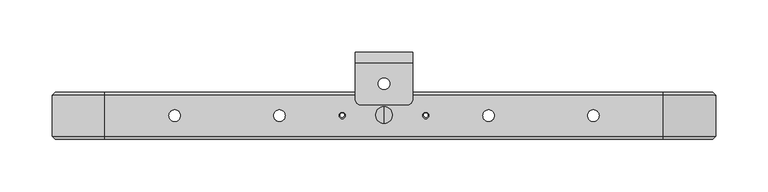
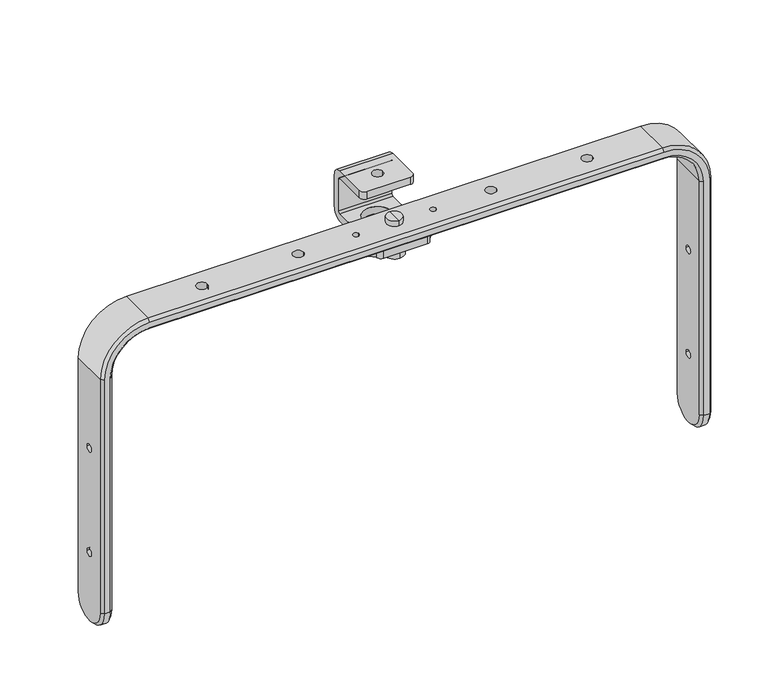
"""IFC4 building model written with IfcOpenShell, lengths in millimetres: proxy geometry, ePS12-HBRK600-CHM : ePS12-HBRK600-CHM."""

from ifc_helpers import new_model, si_unit, frame, origin, place, context, project, spatial, polyline, circle_curve, source, transform, mapped, element, save
from ifc_brep_helpers import plane_surface, cylinder_surface, revolved_surface, advanced_brep


def generic_models_d41a29af(model_context):
    return source(origin(), model_context, "Body", "AdvancedBrep", [
        advanced_brep(
        [(317.0, -10.9281655, -341.5012591), (317.0, -10.9281655, -85.0), (317.0, -50.0718345, -85.0), (317.0, -50.0718345, -341.5012591), (317.0, -26.5, -172.0012591), (317.0, -34.5, -172.0012591), (317.0, -26.5, -286.5012591), (317.0, -34.5, -286.5012591), (314.0, -53.0718345, -85.0), (314.0, -53.0718345, -341.5012591), (267.0, -53.0718345, -38.0), (-267.0, -53.0718345, -38.0), (-314.0, -53.0718345, -85.0), (-314.0, -53.0718345, -341.5012591), (-308.0, -53.0718345, -341.5012591), (-308.0, -53.0718345, -85.0), (-267.0, -53.0718345, -44.0), (267.0, -53.0718345, -44.0), (308.0, -53.0718345, -85.0), (308.0, -53.0718345, -341.5012591), (305.0, -50.0718345, -85.0), (305.0, -50.0718345, -341.5012591), (305.0, -10.9281655, -85.0), (305.0, -10.9281655, -341.5012591), (305.0, -34.5, -172.0012591), (305.0, -26.5, -172.0012591), (305.0, -34.5, -286.5012591), (305.0, -26.5, -286.5012591), (267.0, -10.9281655, -35.0), (267.0, -50.0718345, -35.0), (267.0, -50.0718345, -47.0), (267.0, -10.9281655, -47.0), (-267.0, -10.9281655, -35.0), (-267.0, -50.0718345, -35.0), (5.5, -30.5, -35.0), (-5.5, -30.5, -35.0), (-194.5, -30.5, -35.0), (-205.5, -30.5, -35.0), (-37.0, -30.5, -35.0), (-43.0, -30.5, -35.0), (-94.5, -30.5, -35.0), (-105.5, -30.5, -35.0), (194.5, -30.5, -35.0), (205.5, -30.5, -35.0), (37.0, -30.5, -35.0), (43.0, -30.5, -35.0), (94.5, -30.5, -35.0), (105.5, -30.5, -35.0), (-267.0, -50.0718345, -47.0), (-267.0, -10.9281655, -47.0), (-5.5, -30.5, -47.0), (5.5, -30.5, -47.0), (-205.5, -30.5, -47.0), (-194.5, -30.5, -47.0), (-43.0, -30.5, -47.0), (-37.0, -30.5, -47.0), (-105.5, -30.5, -47.0), (-94.5, -30.5, -47.0), (205.5, -30.5, -47.0), (194.5, -30.5, -47.0), (43.0, -30.5, -47.0), (37.0, -30.5, -47.0), (105.5, -30.5, -47.0), (94.5, -30.5, -47.0), (-317.0, -10.9281655, -85.0), (-317.0, -50.0718345, -85.0), (-305.0, -50.0718345, -85.0), (-305.0, -10.9281655, -85.0), (-317.0, -10.9281655, -341.5012591), (-317.0, -50.0718345, -341.5012591), (-317.0, -34.5, -172.0012591), (-317.0, -26.5, -172.0012591), (-317.0, -34.5, -286.5012591), (-317.0, -26.5, -286.5012591), (-305.0, -50.0718345, -341.5012591), (-305.0, -10.9281655, -341.5012591), (-305.0, -26.5, -172.0012591), (-305.0, -34.5, -172.0012591), (-305.0, -26.5, -286.5012591), (-305.0, -34.5, -286.5012591), (308.0, -7.9281655, -85.0), (308.0, -7.9281655, -341.5012591), (267.0, -7.9281655, -44.0), (-267.0, -7.9281655, -44.0), (-308.0, -7.9281655, -85.0), (-308.0, -7.9281655, -341.5012591), (-314.0, -7.9281655, -341.5012591), (-314.0, -7.9281655, -85.0), (-267.0, -7.9281655, -38.0), (267.0, -7.9281655, -38.0), (314.0, -7.9281655, -85.0), (314.0, -7.9281655, -341.5012591)],
        [
            (0, 1),
            (1, 2),
            (2, 3),
            (3, 0, circle_curve(frame((317.0, -30.5, -341.5012591), z_axis=(1.0, 0.0, 0.0), x_axis=(0.0, -1.0, 0.0)), 19.5718345)),
            (4, 5, circle_curve(frame((317.0, -30.5, -172.0012591), z_axis=(-1.0, 0.0, 0.0), x_axis=(0.0, 1.0, 0.0)), 4.0)),
            (5, 4, circle_curve(frame((317.0, -30.5, -172.0012591), z_axis=(-1.0, 0.0, 0.0), x_axis=(0.0, 1.0, 0.0)), 4.0)),
            (6, 7, circle_curve(frame((317.0, -30.5, -286.5012591), z_axis=(-1.0, 0.0, 0.0), x_axis=(0.0, 1.0, 0.0)), 4.0)),
            (7, 6, circle_curve(frame((317.0, -30.5, -286.5012591), z_axis=(-1.0, 0.0, 0.0), x_axis=(0.0, 1.0, 0.0)), 4.0)),
            (2, 8),
            (8, 9),
            (9, 3),
            (8, 10, circle_curve(frame((267.0, -53.0718345, -85.0), z_axis=(0.0, -1.0, 0.0), x_axis=(1.0, 0.0, 0.0)), 47.0)),
            (10, 11),
            (11, 12, circle_curve(frame((-267.0, -53.0718345, -85.0), z_axis=(0.0, -1.0, 0.0), x_axis=(0.0, 0.0, 1.0)), 47.0)),
            (12, 13),
            (13, 14),
            (14, 15),
            (15, 16, circle_curve(frame((-267.0, -53.0718345, -85.0), z_axis=(0.0, 1.0, 0.0), x_axis=(0.0, 0.0, 1.0)), 41.0)),
            (16, 17),
            (17, 18, circle_curve(frame((267.0, -53.0718345, -85.0), z_axis=(0.0, 1.0, 0.0), x_axis=(1.0, 0.0, 0.0)), 41.0)),
            (18, 19),
            (19, 9),
            (18, 20),
            (20, 21),
            (21, 19),
            (20, 22),
            (22, 23),
            (23, 21, circle_curve(frame((305.0, -30.5, -341.5012591), z_axis=(-1.0, 0.0, 0.0), x_axis=(0.0, -1.0, 0.0)), 19.5718345)),
            (24, 25, circle_curve(frame((305.0, -30.5, -172.0012591), z_axis=(1.0, 0.0, 0.0), x_axis=(0.0, 1.0, 0.0)), 4.0)),
            (25, 24, circle_curve(frame((305.0, -30.5, -172.0012591), z_axis=(1.0, 0.0, 0.0), x_axis=(0.0, 1.0, 0.0)), 4.0)),
            (26, 27, circle_curve(frame((305.0, -30.5, -286.5012591), z_axis=(1.0, 0.0, 0.0), x_axis=(0.0, 1.0, 0.0)), 4.0)),
            (27, 26, circle_curve(frame((305.0, -30.5, -286.5012591), z_axis=(1.0, 0.0, 0.0), x_axis=(0.0, 1.0, 0.0)), 4.0)),
            (1, 28, circle_curve(frame((267.0, -10.9281655, -85.0), z_axis=(0.0, -1.0, 0.0), x_axis=(1.0, 0.0, 0.0)), 50.0)),
            (28, 29),
            (29, 2, circle_curve(frame((267.0, -50.0718345, -85.0), z_axis=(0.0, 1.0, 0.0), x_axis=(1.0, 0.0, 0.0)), 50.0)),
            (29, 10),
            (17, 30),
            (30, 20, circle_curve(frame((267.0, -50.0718345, -85.0), z_axis=(0.0, 1.0, 0.0), x_axis=(1.0, 0.0, 0.0)), 38.0)),
            (30, 31),
            (31, 22, circle_curve(frame((267.0, -10.9281655, -85.0), z_axis=(0.0, 1.0, 0.0), x_axis=(1.0, 0.0, 0.0)), 38.0)),
            (28, 32),
            (32, 33),
            (33, 29),
            (34, 35, circle_curve(frame((0.0, -30.5, -35.0), z_axis=(0.0, 0.0, -1.0), x_axis=(1.0, 0.0, 0.0)), 5.5)),
            (35, 34, circle_curve(frame((0.0, -30.5, -35.0), z_axis=(0.0, 0.0, -1.0), x_axis=(1.0, 0.0, 0.0)), 5.5)),
            (36, 37, circle_curve(frame((-200.0, -30.5, -35.0), z_axis=(0.0, 0.0, -1.0), x_axis=(1.0, 0.0, 0.0)), 5.5)),
            (37, 36, circle_curve(frame((-200.0, -30.5, -35.0), z_axis=(0.0, 0.0, -1.0), x_axis=(1.0, 0.0, 0.0)), 5.5)),
            (38, 39, circle_curve(frame((-40.0, -30.5, -35.0), z_axis=(0.0, 0.0, -1.0), x_axis=(1.0, 0.0, 0.0)), 3.0)),
            (39, 38, circle_curve(frame((-40.0, -30.5, -35.0), z_axis=(0.0, 0.0, -1.0), x_axis=(1.0, 0.0, 0.0)), 3.0)),
            (40, 41, circle_curve(frame((-100.0, -30.5, -35.0), z_axis=(0.0, 0.0, -1.0), x_axis=(1.0, 0.0, 0.0)), 5.5)),
            (41, 40, circle_curve(frame((-100.0, -30.5, -35.0), z_axis=(0.0, 0.0, -1.0), x_axis=(1.0, 0.0, 0.0)), 5.5)),
            (42, 43, circle_curve(frame((200.0, -30.5, -35.0), z_axis=(0.0, 0.0, -1.0), x_axis=(-1.0, 0.0, 0.0)), 5.5)),
            (43, 42, circle_curve(frame((200.0, -30.5, -35.0), z_axis=(0.0, 0.0, -1.0), x_axis=(-1.0, 0.0, 0.0)), 5.5)),
            (44, 45, circle_curve(frame((40.0, -30.5, -35.0), z_axis=(0.0, 0.0, -1.0), x_axis=(-1.0, 0.0, 0.0)), 3.0)),
            (45, 44, circle_curve(frame((40.0, -30.5, -35.0), z_axis=(0.0, 0.0, -1.0), x_axis=(-1.0, 0.0, 0.0)), 3.0)),
            (46, 47, circle_curve(frame((100.0, -30.5, -35.0), z_axis=(0.0, 0.0, -1.0), x_axis=(-1.0, 0.0, 0.0)), 5.5)),
            (47, 46, circle_curve(frame((100.0, -30.5, -35.0), z_axis=(0.0, 0.0, -1.0), x_axis=(-1.0, 0.0, 0.0)), 5.5)),
            (33, 11),
            (16, 48),
            (48, 30),
            (48, 49),
            (49, 31),
            (50, 51, circle_curve(frame((0.0, -30.5, -47.0), z_axis=(0.0, 0.0, 1.0), x_axis=(1.0, 0.0, 0.0)), 5.5)),
            (51, 50, circle_curve(frame((0.0, -30.5, -47.0), z_axis=(0.0, 0.0, 1.0), x_axis=(1.0, 0.0, 0.0)), 5.5)),
            (52, 53, circle_curve(frame((-200.0, -30.5, -47.0), z_axis=(0.0, 0.0, 1.0), x_axis=(1.0, 0.0, 0.0)), 5.5)),
            (53, 52, circle_curve(frame((-200.0, -30.5, -47.0), z_axis=(0.0, 0.0, 1.0), x_axis=(1.0, 0.0, 0.0)), 5.5)),
            (54, 55, circle_curve(frame((-40.0, -30.5, -47.0), z_axis=(0.0, 0.0, 1.0), x_axis=(1.0, 0.0, 0.0)), 3.0)),
            (55, 54, circle_curve(frame((-40.0, -30.5, -47.0), z_axis=(0.0, 0.0, 1.0), x_axis=(1.0, 0.0, 0.0)), 3.0)),
            (56, 57, circle_curve(frame((-100.0, -30.5, -47.0), z_axis=(0.0, 0.0, 1.0), x_axis=(1.0, 0.0, 0.0)), 5.5)),
            (57, 56, circle_curve(frame((-100.0, -30.5, -47.0), z_axis=(0.0, 0.0, 1.0), x_axis=(1.0, 0.0, 0.0)), 5.5)),
            (58, 59, circle_curve(frame((200.0, -30.5, -47.0), z_axis=(0.0, 0.0, 1.0), x_axis=(-1.0, 0.0, 0.0)), 5.5)),
            (59, 58, circle_curve(frame((200.0, -30.5, -47.0), z_axis=(0.0, 0.0, 1.0), x_axis=(-1.0, 0.0, 0.0)), 5.5)),
            (60, 61, circle_curve(frame((40.0, -30.5, -47.0), z_axis=(0.0, 0.0, 1.0), x_axis=(-1.0, 0.0, 0.0)), 3.0)),
            (61, 60, circle_curve(frame((40.0, -30.5, -47.0), z_axis=(0.0, 0.0, 1.0), x_axis=(-1.0, 0.0, 0.0)), 3.0)),
            (62, 63, circle_curve(frame((100.0, -30.5, -47.0), z_axis=(0.0, 0.0, 1.0), x_axis=(-1.0, 0.0, 0.0)), 5.5)),
            (63, 62, circle_curve(frame((100.0, -30.5, -47.0), z_axis=(0.0, 0.0, 1.0), x_axis=(-1.0, 0.0, 0.0)), 5.5)),
            (32, 64, circle_curve(frame((-267.0, -10.9281655, -85.0), z_axis=(0.0, -1.0, 0.0), x_axis=(0.0, 0.0, 1.0)), 50.0)),
            (64, 65),
            (65, 33, circle_curve(frame((-267.0, -50.0718345, -85.0), z_axis=(0.0, 1.0, 0.0), x_axis=(0.0, 0.0, 1.0)), 50.0)),
            (65, 12),
            (15, 66),
            (66, 48, circle_curve(frame((-267.0, -50.0718345, -85.0), z_axis=(0.0, 1.0, 0.0), x_axis=(0.0, 0.0, 1.0)), 38.0)),
            (66, 67),
            (67, 49, circle_curve(frame((-267.0, -10.9281655, -85.0), z_axis=(0.0, 1.0, 0.0), x_axis=(0.0, 0.0, 1.0)), 38.0)),
            (64, 68),
            (68, 69, circle_curve(frame((-317.0, -30.5, -341.5012591), z_axis=(-1.0, 0.0, 0.0), x_axis=(0.0, -1.0, 0.0)), 19.5718345)),
            (69, 65),
            (70, 71, circle_curve(frame((-317.0, -30.5, -172.0012591), z_axis=(1.0, 0.0, 0.0), x_axis=(0.0, 1.0, 0.0)), 4.0)),
            (71, 70, circle_curve(frame((-317.0, -30.5, -172.0012591), z_axis=(1.0, 0.0, 0.0), x_axis=(0.0, 1.0, 0.0)), 4.0)),
            (72, 73, circle_curve(frame((-317.0, -30.5, -286.5012591), z_axis=(1.0, 0.0, 0.0), x_axis=(0.0, 1.0, 0.0)), 4.0)),
            (73, 72, circle_curve(frame((-317.0, -30.5, -286.5012591), z_axis=(1.0, 0.0, 0.0), x_axis=(0.0, 1.0, 0.0)), 4.0)),
            (69, 13),
            (14, 74),
            (74, 66),
            (74, 75, circle_curve(frame((-305.0, -30.5, -341.5012591), z_axis=(1.0, 0.0, 0.0), x_axis=(0.0, -1.0, 0.0)), 19.5718345)),
            (75, 67),
            (76, 77, circle_curve(frame((-305.0, -30.5, -172.0012591), z_axis=(-1.0, 0.0, 0.0), x_axis=(0.0, 1.0, 0.0)), 4.0)),
            (77, 76, circle_curve(frame((-305.0, -30.5, -172.0012591), z_axis=(-1.0, 0.0, 0.0), x_axis=(0.0, 1.0, 0.0)), 4.0)),
            (78, 79, circle_curve(frame((-305.0, -30.5, -286.5012591), z_axis=(-1.0, 0.0, 0.0), x_axis=(0.0, 1.0, 0.0)), 4.0)),
            (79, 78, circle_curve(frame((-305.0, -30.5, -286.5012591), z_axis=(-1.0, 0.0, 0.0), x_axis=(0.0, 1.0, 0.0)), 4.0)),
            (22, 80),
            (80, 81),
            (81, 23),
            (80, 82, circle_curve(frame((267.0, -7.9281655, -85.0), z_axis=(0.0, -1.0, 0.0), x_axis=(1.0, 0.0, 0.0)), 41.0)),
            (82, 83),
            (83, 84, circle_curve(frame((-267.0, -7.9281655, -85.0), z_axis=(0.0, -1.0, 0.0), x_axis=(0.0, 0.0, 1.0)), 41.0)),
            (84, 85),
            (85, 86),
            (86, 87),
            (87, 88, circle_curve(frame((-267.0, -7.9281655, -85.0), z_axis=(0.0, 1.0, 0.0), x_axis=(0.0, 0.0, 1.0)), 47.0)),
            (88, 89),
            (89, 90, circle_curve(frame((267.0, -7.9281655, -85.0), z_axis=(0.0, 1.0, 0.0), x_axis=(1.0, 0.0, 0.0)), 47.0)),
            (90, 91),
            (91, 81),
            (0, 91),
            (90, 1),
            (31, 82),
            (89, 28),
            (49, 83),
            (88, 32),
            (67, 84),
            (87, 64),
            (75, 85),
            (86, 68),
            (85, 14, circle_curve(frame((-308.0, -30.5, -341.5012591), z_axis=(-1.0, 0.0, 0.0), x_axis=(0.0, -1.0, 0.0)), 22.5718345)),
            (13, 86, circle_curve(frame((-314.0, -30.5, -341.5012591), z_axis=(1.0, 0.0, 0.0), x_axis=(0.0, -1.0, 0.0)), 22.5718345)),
            (91, 9, circle_curve(frame((314.0, -30.5, -341.5012591), z_axis=(-1.0, 0.0, 0.0), x_axis=(0.0, -1.0, 0.0)), 22.5718345)),
            (19, 81, circle_curve(frame((308.0, -30.5, -341.5012591), z_axis=(1.0, 0.0, 0.0), x_axis=(0.0, -1.0, 0.0)), 22.5718345)),
            (50, 35),
            (34, 51),
            (52, 37),
            (36, 53),
            (54, 39),
            (38, 55),
            (24, 5),
            (4, 25),
            (70, 77),
            (76, 71),
            (56, 41),
            (40, 57),
            (58, 43),
            (42, 59),
            (60, 45),
            (44, 61),
            (62, 47),
            (46, 63),
            (26, 7),
            (6, 27),
            (72, 79),
            (78, 73),
        ],
        [
            plane_surface(frame((317.0, -10.9281655, -341.5012591), z_axis=(1.0, 0.0, 0.0), x_axis=(0.0, 0.0, 1.0))),
            plane_surface(frame((317.0, -50.0718345, -341.5012591), z_axis=(0.7071067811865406, -0.7071067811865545, 0.0), x_axis=(0.0, 0.0, 1.0))),
            plane_surface(frame((314.0, -53.0718345, -341.5012591), z_axis=(0.0, -1.0, 0.0), x_axis=(0.0, 0.0, 1.0))),
            plane_surface(frame((308.0, -53.0718345, -341.5012591), z_axis=(-0.707106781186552, -0.707106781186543, 0.0), x_axis=(0.0, 0.0, 1.0))),
            plane_surface(frame((305.0, -50.0718345, -341.5012591), z_axis=(-1.0, 0.0, 0.0), x_axis=(0.0, 0.0, 1.0))),
            cylinder_surface(frame((267.0, -30.5, -85.0), z_axis=(0.0, -1.0, 0.0), x_axis=(1.0, 0.0, 0.0)), 50.0),
            revolved_surface(polyline([(317.0, -50.0718345, -85.0), (314.0, -53.0718345, -85.0)]), (267.0, -30.5, -85.0), (0.0, -1.0, 0.0)),
            revolved_surface(polyline([(308.0, -53.0718345, -85.0), (305.0, -50.0718345, -85.0)]), (267.0, -30.5, -85.0), (0.0, -1.0, 0.0)),
            revolved_surface(polyline([(305.0, -50.0718345, -85.0), (305.0, -10.928165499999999, -85.0)]), (267.0, -30.5, -85.0), (0.0, -1.0, 0.0)),
            plane_surface(frame((267.0, -10.9281655, -35.0), z_axis=(0.0, 0.0, 1.0), x_axis=(-1.0, 0.0, 0.0))),
            plane_surface(frame((267.0, -50.0718345, -35.0), z_axis=(0.0, -0.7071067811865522, 0.7071067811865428), x_axis=(-1.0, 0.0, 0.0))),
            plane_surface(frame((267.0, -53.0718345, -44.0), z_axis=(0.0, -0.7071067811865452, -0.7071067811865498), x_axis=(-1.0, 0.0, 0.0))),
            plane_surface(frame((267.0, -50.0718345, -47.0), z_axis=(0.0, 0.0, -1.0), x_axis=(-1.0, 0.0, 0.0))),
            cylinder_surface(frame((-267.0, -30.5, -85.0), z_axis=(0.0, -1.0, 0.0), x_axis=(0.0, 0.0, 1.0)), 50.0),
            revolved_surface(polyline([(-267.0, -50.0718345, -35.0), (-267.0, -53.0718345, -38.0)]), (-267.0, -30.5, -85.0), (0.0, -1.0, 0.0)),
            revolved_surface(polyline([(-267.0, -53.0718345, -44.0), (-267.0, -50.0718345, -47.0)]), (-267.0, -30.5, -85.0), (0.0, -1.0, 0.0)),
            revolved_surface(polyline([(-267.0, -50.0718345, -47.0), (-267.0, -10.928165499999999, -47.0)]), (-267.0, -30.5, -85.0), (0.0, -1.0, 0.0)),
            plane_surface(frame((-317.0, -10.9281655, -85.0), z_axis=(-1.0, 0.0, 0.0), x_axis=(0.0, 0.0, -1.0))),
            plane_surface(frame((-317.0, -50.0718345, -85.0), z_axis=(-0.707106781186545, -0.70710678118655, 0.0), x_axis=(0.0, 0.0, -1.0))),
            plane_surface(frame((-308.0, -53.0718345, -85.0), z_axis=(0.7071067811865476, -0.7071067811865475, 0.0), x_axis=(0.0, 0.0, -1.0))),
            plane_surface(frame((-305.0, -50.0718345, -85.0), z_axis=(1.0, 0.0, 0.0), x_axis=(0.0, 0.0, -1.0))),
            plane_surface(frame((305.0, -10.9281655, -341.5012591), z_axis=(-0.7071067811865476, 0.7071067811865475, 0.0), x_axis=(0.0, 0.0, 1.0))),
            plane_surface(frame((308.0, -7.9281655, -341.5012591), z_axis=(0.0, 1.0, 0.0), x_axis=(0.0, 0.0, 1.0))),
            plane_surface(frame((314.0, -7.9281655, -341.5012591), z_axis=(0.707106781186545, 0.70710678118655, 0.0), x_axis=(0.0, 0.0, 1.0))),
            revolved_surface(polyline([(305.0, -10.9281655, -85.0), (308.0, -7.9281655, -85.0)]), (267.0, -30.5, -85.0), (0.0, -1.0, 0.0)),
            revolved_surface(polyline([(314.0, -7.9281655, -85.0), (317.0, -10.9281655, -85.0)]), (267.0, -30.5, -85.0), (0.0, -1.0, 0.0)),
            plane_surface(frame((267.0, -10.9281655, -47.0), z_axis=(0.0, 0.7071067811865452, -0.7071067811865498), x_axis=(-1.0, 0.0, 0.0))),
            plane_surface(frame((267.0, -7.9281655, -38.0), z_axis=(0.0, 0.7071067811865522, 0.7071067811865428), x_axis=(-1.0, 0.0, 0.0))),
            revolved_surface(polyline([(-267.0, -10.9281655, -47.0), (-267.0, -7.9281655, -44.0)]), (-267.0, -30.5, -85.0), (0.0, -1.0, 0.0)),
            revolved_surface(polyline([(-267.0, -7.9281655, -38.0), (-267.0, -10.9281655, -35.0)]), (-267.0, -30.5, -85.0), (0.0, -1.0, 0.0)),
            plane_surface(frame((-305.0, -10.9281655, -85.0), z_axis=(0.707106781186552, 0.707106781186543, 0.0), x_axis=(0.0, 0.0, -1.0))),
            plane_surface(frame((-314.0, -7.9281655, -85.0), z_axis=(-0.7071067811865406, 0.7071067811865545, 0.0), x_axis=(0.0, 0.0, -1.0))),
            cylinder_surface(frame((1882.5, -30.5, -341.5012591), z_axis=(1.0, 0.0, 0.0), x_axis=(0.0, -1.0, 0.0)), 22.5718345),
            revolved_surface(polyline([(-308.0, -53.0718345, -341.5012591), (-305.0, -50.0718345, -341.5012591)]), (1882.5, -30.5, -341.5012591), (1.0, 0.0, 0.0)),
            revolved_surface(polyline([(-317.0, -50.0718345, -341.5012591), (-314.0, -53.0718345, -341.5012591)]), (1882.5, -30.5, -341.5012591), (1.0, 0.0, 0.0)),
            cylinder_surface(frame((-1882.5, -30.5, -341.5012591), z_axis=(1.0, 0.0, 0.0), x_axis=(0.0, -1.0, 0.0)), 22.5718345),
            revolved_surface(polyline([(305.0, -50.0718345, -341.5012591), (308.0, -53.0718345, -341.5012591)]), (-1882.5, -30.5, -341.5012591), (1.0, 0.0, 0.0)),
            revolved_surface(polyline([(314.0, -53.0718345, -341.5012591), (317.0, -50.0718345, -341.5012591)]), (-1882.5, -30.5, -341.5012591), (1.0, 0.0, 0.0)),
            revolved_surface(polyline([(5.5, -30.5, -35.0), (5.5, -30.5, -47.0)]), (0.0, -30.5, -55.0), (0.0, 0.0, 1.0)),
            revolved_surface(polyline([(-194.5, -30.5, -35.0), (-194.5, -30.5, -47.0)]), (-200.0, -30.5, -35.0), (0.0, 0.0, 1.0)),
            revolved_surface(polyline([(-37.0, -30.5, -35.0), (-37.0, -30.5, -47.0)]), (-40.0, -30.5, -35.0), (0.0, 0.0, 1.0)),
            revolved_surface(polyline([(317.0, -26.5, -172.0012591), (305.0, -26.5, -172.0012591)]), (-317.0, -30.5, -172.0012591), (1.0, 0.0, 0.0)),
            revolved_surface(polyline([(-305.0, -26.5, -172.0012591), (-317.0, -26.5, -172.0012591)]), (-317.0, -30.5, -172.0012591), (1.0, 0.0, 0.0)),
            revolved_surface(polyline([(-94.5, -30.5, -35.0), (-94.5, -30.5, -47.0)]), (-100.0, -30.5, -35.0), (0.0, 0.0, 1.0)),
            revolved_surface(polyline([(194.5, -30.5, -35.0), (194.5, -30.5, -47.0)]), (200.0, -30.5, -35.0), (0.0, 0.0, 1.0)),
            revolved_surface(polyline([(37.0, -30.5, -35.0), (37.0, -30.5, -47.0)]), (40.0, -30.5, -35.0), (0.0, 0.0, 1.0)),
            revolved_surface(polyline([(94.5, -30.5, -35.0), (94.5, -30.5, -47.0)]), (100.0, -30.5, -35.0), (0.0, 0.0, 1.0)),
            revolved_surface(polyline([(317.0, -26.5, -286.5012591), (305.0, -26.5, -286.5012591)]), (0.0, -30.5, -286.5012591), (1.0, 0.0, 0.0)),
            revolved_surface(polyline([(-305.0, -26.5, -286.5012591), (-317.0, -26.5, -286.5012591)]), (0.0, -30.5, -286.5012591), (1.0, 0.0, 0.0)),
        ],
        [
            (0, [[1, 2, 3, 4], [5, 6], [7, 8]]),
            (1, [[-3, 9, 10, 11]]),
            (2, [[-10, 12, 13, 14, 15, 16, 17, 18, 19, 20, 21, 22]]),
            (3, [[-21, 23, 24, 25]]),
            (4, [[-24, 26, 27, 28], [29, 30], [31, 32]]),
            (5, [[-2, 33, 34, 35]]),
            (6, [[-9, -35, 36, -12]]),
            (7, [[-20, 37, 38, -23]]),
            (8, [[-26, -38, 39, 40]]),
            (9, [[-34, 41, 42, 43], [44, 45], [46, 47], [48, 49], [50, 51], [52, 53], [54, 55], [56, 57]]),
            (10, [[-13, -36, -43, 58]]),
            (11, [[-19, 59, 60, -37]]),
            (12, [[-39, -60, 61, 62], [63, 64], [65, 66], [67, 68], [69, 70], [71, 72], [73, 74], [75, 76]]),
            (13, [[-42, 77, 78, 79]]),
            (14, [[-14, -58, -79, 80]]),
            (15, [[-18, 81, 82, -59]]),
            (16, [[-61, -82, 83, 84]]),
            (17, [[-78, 85, 86, 87], [88, 89], [90, 91]]),
            (18, [[-15, -80, -87, 92]]),
            (19, [[-17, 93, 94, -81]]),
            (20, [[-83, -94, 95, 96], [97, 98], [99, 100]]),
            (21, [[-27, 101, 102, 103]]),
            (22, [[-102, 104, 105, 106, 107, 108, 109, 110, 111, 112, 113, 114]]),
            (23, [[-1, 115, -113, 116]]),
            (24, [[-40, 117, -104, -101]]),
            (25, [[-33, -116, -112, 118]]),
            (26, [[-62, 119, -105, -117]]),
            (27, [[-41, -118, -111, 120]]),
            (28, [[-84, 121, -106, -119]]),
            (29, [[-77, -120, -110, 122]]),
            (30, [[-96, 123, -107, -121]]),
            (31, [[-85, -122, -109, 124]]),
            (32, [[125, -16, 126, -108]]),
            (33, [[-125, -123, -95, -93]]),
            (34, [[-126, -92, -86, -124]]),
            (35, [[127, -22, 128, -114]]),
            (36, [[-128, -25, -28, -103]]),
            (37, [[-127, -115, -4, -11]]),
            (38, [[129, -44, 130, -63]]),
            (38, [[-129, -64, -130, -45]]),
            (39, [[131, -46, 132, -65]]),
            (39, [[-131, -66, -132, -47]]),
            (40, [[133, -48, 134, -67]]),
            (40, [[-133, -68, -134, -49]]),
            (41, [[135, -5, 136, -29]]),
            (42, [[137, -97, 138, -88]]),
            (41, [[-135, -30, -136, -6]]),
            (42, [[-137, -89, -138, -98]]),
            (43, [[139, -50, 140, -69]]),
            (43, [[-139, -70, -140, -51]]),
            (44, [[141, -52, 142, -71]]),
            (44, [[-141, -72, -142, -53]]),
            (45, [[143, -54, 144, -73]]),
            (45, [[-143, -74, -144, -55]]),
            (46, [[145, -56, 146, -75]]),
            (46, [[-145, -76, -146, -57]]),
            (47, [[147, -7, 148, -31]]),
            (48, [[149, -99, 150, -90]]),
            (47, [[-147, -32, -148, -8]]),
            (48, [[-149, -91, -150, -100]]),
        ],
    ),
        advanced_brep(
        [(-27.5, 20.0220326, -55.0), (27.5, 20.0220326, -55.0), (27.5, -9.9779674, -55.0), (37.5, -19.9779674, -55.0), (42.5, -19.9779674, -55.0), (42.5, -39.9779674, -55.0), (36.6421356, -39.9779674, -55.0), (26.9417827, -47.2877077, -55.0), (22.545369, -49.9781759, -55.0), (-22.590738, -49.9779674, -55.0), (-27.3678633, -46.0992499, -55.0), (-36.6421356, -39.9779674, -55.0), (-42.5, -39.9779674, -55.0), (-42.5, -19.9779674, -55.0), (-37.5, -19.9779674, -55.0), (-27.5, -9.9779674, -55.0), (-42.0082653, -29.9779674, -55.0), (-38.0082653, -29.9779674, -55.0), (42.0082653, -29.9779674, -55.0), (38.0082653, -29.9779674, -55.0), (1.5, -24.4779674, -55.0), (-1.5, -24.4779674, -55.0), (-1.5, -35.4779674, -55.0), (1.5, -35.4779674, -55.0), (-15.0, 0.0, -55.0), (15.0, 0.0, -55.0), (-27.5, 30.0220326, -45.0), (27.5, 30.0220326, -45.0), (-27.5, 30.0220326, -10.0), (27.5, 30.0220326, -10.0), (-27.5, 20.0220326, 0.0), (27.5, 20.0220326, 0.0), (-27.5, -14.9779674, 0.0), (-22.5, -19.9779674, 0.0), (22.5, -19.9779674, 0.0), (27.5, -14.9779674, 0.0), (5.5, 0.0, 0.0), (-5.5, 0.0, 0.0), (-22.5, -19.9779674, -8.0), (22.5, -19.9779674, -8.0), (-27.5, -14.9779674, -8.0), (-27.5, 20.0220326, -8.0), (27.5, 20.0220326, -8.0), (27.5, -14.9779674, -8.0), (-5.5, 0.0, -8.0), (5.5, 0.0, -8.0), (-27.5, 22.0220326, -10.0), (27.5, 22.0220326, -10.0), (-27.5, 22.0220326, -45.0), (27.5, 22.0220326, -45.0), (-27.5, 20.0220326, -47.0), (27.5, 20.0220326, -47.0), (-27.5, -9.9779674, -47.0), (-37.5, -19.9779674, -47.0), (-42.5, -19.9779674, -47.0), (-42.5, -39.9779674, -47.0), (-36.6421356, -39.9779674, -47.0), (-27.3678633, -46.0992499, -47.0), (-22.545369, -49.9781759, -47.0), (22.590738, -49.9779674, -47.0), (26.9417827, -47.2877077, -47.0), (36.6421356, -39.9779674, -47.0), (42.5, -39.9779674, -47.0), (42.5, -19.9779674, -47.0), (37.5, -19.9779674, -47.0), (27.5, -9.9779674, -47.0), (-38.0082653, -29.9779674, -47.0), (-42.0082653, -29.9779674, -47.0), (38.0082653, -29.9779674, -47.0), (42.0082653, -29.9779674, -47.0), (-1.5, -24.4779674, -47.0), (1.5, -24.4779674, -47.0), (1.5, -35.4779674, -47.0), (-1.5, -35.4779674, -47.0), (15.0, 0.0, -47.0), (-15.0, 0.0, -47.0)],
        [
            (0, 1),
            (1, 2),
            (2, 3, circle_curve(frame((37.5, -9.9779674, -55.0), z_axis=(0.0, 0.0, 1.0), x_axis=(-1.0, 0.0, 0.0)), 10.0)),
            (3, 4),
            (4, 5, circle_curve(frame((42.5, -29.9779674, -55.0), z_axis=(0.0, 0.0, -1.0), x_axis=(-1.0, 0.0, 0.0)), 10.0)),
            (5, 6),
            (6, 7, circle_curve(frame((36.6685563, -50.1043005, -55.0), z_axis=(0.0, 0.0, 1.0), x_axis=(-1.0, 0.0, 0.0)), 10.1263676)),
            (7, 8, circle_curve(frame((22.545369, -45.0409177, -55.0), z_axis=(0.0, 0.0, -1.0), x_axis=(-1.0, 0.0, 0.0)), 4.9372582)),
            (8, 9),
            (9, 10, circle_curve(frame((-22.545369, -45.0409177, -55.0), z_axis=(0.0, 0.0, -1.0), x_axis=(1.0, 0.0, 0.0)), 4.9372582)),
            (10, 11, circle_curve(frame((-36.6685563, -50.1043005, -55.0), z_axis=(0.0, 0.0, 1.0), x_axis=(1.0, 0.0, 0.0)), 10.1263676)),
            (11, 12),
            (12, 13, circle_curve(frame((-42.5, -29.9779674, -55.0), z_axis=(0.0, 0.0, -1.0), x_axis=(1.0, 0.0, 0.0)), 10.0)),
            (13, 14),
            (14, 15, circle_curve(frame((-37.5, -9.9779674, -55.0), z_axis=(0.0, 0.0, 1.0), x_axis=(1.0, 0.0, 0.0)), 10.0)),
            (15, 0),
            (16, 17, circle_curve(frame((-40.0082653, -29.9779674, -55.0), z_axis=(0.0, 0.0, 1.0), x_axis=(1.0, 0.0, 0.0)), 2.0)),
            (17, 16, circle_curve(frame((-40.0082653, -29.9779674, -55.0), z_axis=(0.0, 0.0, 1.0), x_axis=(1.0, 0.0, 0.0)), 2.0)),
            (18, 19, circle_curve(frame((40.0082653, -29.9779674, -55.0), z_axis=(0.0, 0.0, 1.0), x_axis=(-1.0, 0.0, 0.0)), 2.0)),
            (19, 18, circle_curve(frame((40.0082653, -29.9779674, -55.0), z_axis=(0.0, 0.0, 1.0), x_axis=(-1.0, 0.0, 0.0)), 2.0)),
            (20, 21),
            (21, 22, circle_curve(frame((-1.5, -29.9779674, -55.0), z_axis=(0.0, 0.0, 1.0), x_axis=(1.0, 0.0, 0.0)), 5.5)),
            (22, 23),
            (23, 20, circle_curve(frame((1.5, -29.9779674, -55.0), z_axis=(0.0, 0.0, 1.0), x_axis=(1.0, 0.0, 0.0)), 5.5)),
            (24, 25, circle_curve(frame((0.0, 0.0, -55.0), z_axis=(0.0, 0.0, 1.0), x_axis=(1.0, 0.0, 0.0)), 15.0)),
            (25, 24, circle_curve(frame((0.0, 0.0, -55.0), z_axis=(0.0, 0.0, 1.0), x_axis=(1.0, 0.0, 0.0)), 15.0)),
            (0, 26, circle_curve(frame((-27.5, 20.0220326, -45.0), z_axis=(1.0, 0.0, 0.0), x_axis=(0.0, 1.0, 0.0)), 10.0)),
            (26, 27),
            (27, 1, circle_curve(frame((27.5, 20.0220326, -45.0), z_axis=(-1.0, 0.0, 0.0), x_axis=(0.0, 1.0, 0.0)), 10.0)),
            (26, 28),
            (28, 29),
            (29, 27),
            (28, 30, circle_curve(frame((-27.5, 20.0220326, -10.0), z_axis=(1.0, 0.0, 0.0), x_axis=(0.0, 1.0, 0.0)), 10.0)),
            (30, 31),
            (31, 29, circle_curve(frame((27.5, 20.0220326, -10.0), z_axis=(-1.0, 0.0, 0.0), x_axis=(0.0, 1.0, 0.0)), 10.0)),
            (30, 32),
            (32, 33, circle_curve(frame((-22.5, -14.9779674, 0.0), z_axis=(0.0, 0.0, 1.0), x_axis=(1.0, 0.0, 0.0)), 5.0)),
            (33, 34),
            (34, 35, circle_curve(frame((22.5, -14.9779674, 0.0), z_axis=(0.0, 0.0, 1.0), x_axis=(-1.0, 0.0, 0.0)), 5.0)),
            (35, 31),
            (36, 37, circle_curve(frame((0.0, 0.0, 0.0), z_axis=(0.0, 0.0, -1.0), x_axis=(1.0, 0.0, 0.0)), 5.5)),
            (37, 36, circle_curve(frame((0.0, 0.0, 0.0), z_axis=(0.0, 0.0, -1.0), x_axis=(1.0, 0.0, 0.0)), 5.5)),
            (33, 38),
            (38, 39),
            (39, 34),
            (38, 40, circle_curve(frame((-22.5, -14.9779674, -8.0), z_axis=(0.0, 0.0, -1.0), x_axis=(1.0, 0.0, 0.0)), 5.0)),
            (40, 41),
            (41, 42),
            (42, 43),
            (43, 39, circle_curve(frame((22.5, -14.9779674, -8.0), z_axis=(0.0, 0.0, -1.0), x_axis=(-1.0, 0.0, 0.0)), 5.0)),
            (44, 45, circle_curve(frame((0.0, 0.0, -8.0), z_axis=(0.0, 0.0, 1.0), x_axis=(1.0, 0.0, 0.0)), 5.5)),
            (45, 44, circle_curve(frame((0.0, 0.0, -8.0), z_axis=(0.0, 0.0, 1.0), x_axis=(1.0, 0.0, 0.0)), 5.5)),
            (41, 46, circle_curve(frame((-27.5, 20.0220326, -10.0), z_axis=(-1.0, 0.0, 0.0), x_axis=(0.0, 1.0, 0.0)), 2.0)),
            (46, 47),
            (47, 42, circle_curve(frame((27.5, 20.0220326, -10.0), z_axis=(1.0, 0.0, 0.0), x_axis=(0.0, 1.0, 0.0)), 2.0)),
            (46, 48),
            (48, 49),
            (49, 47),
            (48, 50, circle_curve(frame((-27.5, 20.0220326, -45.0), z_axis=(-1.0, 0.0, 0.0), x_axis=(0.0, 1.0, 0.0)), 2.0)),
            (50, 51),
            (51, 49, circle_curve(frame((27.5, 20.0220326, -45.0), z_axis=(1.0, 0.0, 0.0), x_axis=(0.0, 1.0, 0.0)), 2.0)),
            (50, 52),
            (52, 53, circle_curve(frame((-37.5, -9.9779674, -47.0), z_axis=(0.0, 0.0, -1.0), x_axis=(1.0, 0.0, 0.0)), 10.0)),
            (53, 54),
            (54, 55, circle_curve(frame((-42.5, -29.9779674, -47.0), z_axis=(0.0, 0.0, 1.0), x_axis=(1.0, 0.0, 0.0)), 10.0)),
            (55, 56),
            (56, 57, circle_curve(frame((-36.6685563, -50.1043005, -47.0), z_axis=(0.0, 0.0, -1.0), x_axis=(1.0, 0.0, 0.0)), 10.1263676)),
            (57, 58, circle_curve(frame((-22.545369, -45.0409177, -47.0), z_axis=(0.0, 0.0, 1.0), x_axis=(1.0, 0.0, 0.0)), 4.9372582)),
            (58, 59),
            (59, 60, circle_curve(frame((22.545369, -45.0409177, -47.0), z_axis=(0.0, 0.0, 1.0), x_axis=(-1.0, 0.0, 0.0)), 4.9372582)),
            (60, 61, circle_curve(frame((36.6685563, -50.1043005, -47.0), z_axis=(0.0, 0.0, -1.0), x_axis=(-1.0, 0.0, 0.0)), 10.1263676)),
            (61, 62),
            (62, 63, circle_curve(frame((42.5, -29.9779674, -47.0), z_axis=(0.0, 0.0, 1.0), x_axis=(-1.0, 0.0, 0.0)), 10.0)),
            (63, 64),
            (64, 65, circle_curve(frame((37.5, -9.9779674, -47.0), z_axis=(0.0, 0.0, -1.0), x_axis=(-1.0, 0.0, 0.0)), 10.0)),
            (65, 51),
            (66, 67, circle_curve(frame((-40.0082653, -29.9779674, -47.0), z_axis=(0.0, 0.0, -1.0), x_axis=(1.0, 0.0, 0.0)), 2.0)),
            (67, 66, circle_curve(frame((-40.0082653, -29.9779674, -47.0), z_axis=(0.0, 0.0, -1.0), x_axis=(1.0, 0.0, 0.0)), 2.0)),
            (68, 69, circle_curve(frame((40.0082653, -29.9779674, -47.0), z_axis=(0.0, 0.0, -1.0), x_axis=(-1.0, 0.0, 0.0)), 2.0)),
            (69, 68, circle_curve(frame((40.0082653, -29.9779674, -47.0), z_axis=(0.0, 0.0, -1.0), x_axis=(-1.0, 0.0, 0.0)), 2.0)),
            (70, 71),
            (71, 72, circle_curve(frame((1.5, -29.9779674, -47.0), z_axis=(0.0, 0.0, -1.0), x_axis=(1.0, 0.0, 0.0)), 5.5)),
            (72, 73),
            (73, 70, circle_curve(frame((-1.5, -29.9779674, -47.0), z_axis=(0.0, 0.0, -1.0), x_axis=(1.0, 0.0, 0.0)), 5.5)),
            (74, 75, circle_curve(frame((0.0, 0.0, -47.0), z_axis=(0.0, 0.0, -1.0), x_axis=(1.0, 0.0, 0.0)), 15.0)),
            (75, 74, circle_curve(frame((0.0, 0.0, -47.0), z_axis=(0.0, 0.0, -1.0), x_axis=(1.0, 0.0, 0.0)), 15.0)),
            (58, 9),
            (8, 59),
            (32, 40),
            (15, 52),
            (35, 43),
            (65, 2),
            (44, 37),
            (36, 45),
            (57, 10),
            (56, 11),
            (55, 12),
            (54, 13),
            (53, 14),
            (66, 17),
            (16, 67),
            (64, 3),
            (63, 4),
            (62, 5),
            (61, 6),
            (60, 7),
            (68, 19),
            (18, 69),
            (70, 21),
            (20, 71),
            (73, 22),
            (72, 23),
            (74, 25),
            (24, 75),
        ],
        [
            plane_surface(frame((53.9659218, -49.9779674, -55.0), z_axis=(0.0, 0.0, -1.0), x_axis=(-1.0, 0.0, 0.0))),
            cylinder_surface(frame((-54.0, 20.0220326, -45.0), z_axis=(1.0, 0.0, 0.0), x_axis=(0.0, 1.0, 0.0)), 10.0),
            plane_surface(frame((53.9659218, 30.0220326, -45.0), z_axis=(0.0, 1.0, 0.0), x_axis=(-1.0, 0.0, 0.0))),
            cylinder_surface(frame((-54.0, 20.0220326, -10.0), z_axis=(1.0, 0.0, 0.0), x_axis=(0.0, 1.0, 0.0)), 10.0),
            plane_surface(frame((53.9659218, 20.0220326, 0.0), z_axis=(0.0, 0.0, 1.0), x_axis=(-1.0, 0.0, 0.0))),
            plane_surface(frame((53.9659218, -19.9779674, 0.0), z_axis=(0.0, -1.0, 0.0), x_axis=(-1.0, 0.0, 0.0))),
            plane_surface(frame((53.9659218, -19.9779674, -8.0), z_axis=(0.0, 0.0, -1.0), x_axis=(-1.0, 0.0, 0.0))),
            revolved_surface(polyline([(-27.5, 22.0220326, -10.0), (27.5, 22.0220326, -10.0)]), (-54.0, 20.0220326, -10.0), (-1.0, 0.0, 0.0)),
            plane_surface(frame((53.9659218, 22.0220326, -10.0), z_axis=(0.0, -1.0, 0.0), x_axis=(-1.0, 0.0, 0.0))),
            revolved_surface(polyline([(-27.5, 22.0220326, -45.0), (27.5, 22.0220326, -45.0)]), (-54.0, 20.0220326, -45.0), (-1.0, 0.0, 0.0)),
            plane_surface(frame((53.9659218, 20.0220326, -47.0), z_axis=(0.0, 0.0, 1.0), x_axis=(-1.0, 0.0, 0.0))),
            plane_surface(frame((53.9659218, -49.9779674, -47.0), z_axis=(0.0, -1.0, 0.0), x_axis=(-1.0, 0.0, 0.0))),
            cylinder_surface(frame((-22.5, -14.9779674, -47.0), z_axis=(0.0, 0.0, -1.0), x_axis=(1.0, 0.0, 0.0)), 5.0),
            plane_surface(frame((-27.5, -14.9779674, 0.0), z_axis=(-1.0, 0.0, 0.0), x_axis=(0.0, 0.0, -1.0))),
            plane_surface(frame((27.5, 33.3362617, 0.0), z_axis=(1.0, 0.0, 0.0), x_axis=(0.0, 0.0, -1.0))),
            cylinder_surface(frame((22.5, -14.9779674, -47.0), z_axis=(0.0, 0.0, -1.0), x_axis=(-1.0, 0.0, 0.0)), 5.0),
            revolved_surface(polyline([(5.5, 0.0, 0.0), (5.5, 0.0, -8.0)]), (0.0, 0.0, -47.0), (0.0, 0.0, 1.0)),
            cylinder_surface(frame((-22.545369, -45.0409177, -55.0), z_axis=(0.0, 0.0, -1.0), x_axis=(1.0, 0.0, 0.0)), 4.9372582),
            revolved_surface(polyline([(-26.542188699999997, -50.1043005, -47.0), (-26.542188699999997, -50.1043005, -55.0)]), (-36.6685563, -50.1043005, -55.0), (0.0, 0.0, 1.0)),
            plane_surface(frame((-36.6421356, -39.9779674, -47.0), z_axis=(0.0, -1.0, 0.0), x_axis=(0.0, 0.0, -1.0))),
            cylinder_surface(frame((-42.5, -29.9779674, -55.0), z_axis=(0.0, 0.0, -1.0), x_axis=(1.0, 0.0, 0.0)), 10.0),
            plane_surface(frame((-42.5, -19.9779674, -47.0), z_axis=(0.0, 1.0, 0.0), x_axis=(0.0, 0.0, -1.0))),
            revolved_surface(polyline([(-38.0082653, -29.9779674, -47.0), (-38.0082653, -29.9779674, -55.0)]), (-40.0082653, -29.9779674, -47.0), (0.0, 0.0, 1.0)),
            revolved_surface(polyline([(-27.5, -9.9779674, -47.0), (-27.5, -9.9779674, -55.0)]), (-37.5, -9.9779674, -55.0), (0.0, 0.0, 1.0)),
            revolved_surface(polyline([(27.5, -9.9779674, -47.0), (27.5, -9.9779674, -55.0)]), (37.5, -9.9779674, -47.0), (0.0, 0.0, 1.0)),
            plane_surface(frame((37.5, -19.9779674, -47.0), z_axis=(0.0, 1.0, 0.0), x_axis=(0.0, 0.0, -1.0))),
            cylinder_surface(frame((42.5, -29.9779674, -47.0), z_axis=(0.0, 0.0, -1.0), x_axis=(-1.0, 0.0, 0.0)), 10.0),
            plane_surface(frame((42.5, -39.9779674, -47.0), z_axis=(0.0, -1.0, 0.0), x_axis=(0.0, 0.0, -1.0))),
            revolved_surface(polyline([(26.542188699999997, -50.1043005, -47.0), (26.542188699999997, -50.1043005, -55.0)]), (36.6685563, -50.1043005, -47.0), (0.0, 0.0, 1.0)),
            cylinder_surface(frame((22.545369, -45.0409177, -47.0), z_axis=(0.0, 0.0, -1.0), x_axis=(-1.0, 0.0, 0.0)), 4.9372582),
            revolved_surface(polyline([(38.0082653, -29.9779674, -47.0), (38.0082653, -29.9779674, -55.0)]), (40.0082653, -29.9779674, -47.0), (0.0, 0.0, 1.0)),
            plane_surface(frame((1.5, -24.4779674, -47.0), z_axis=(0.0, -1.0, 0.0), x_axis=(0.0, 0.0, -1.0))),
            revolved_surface(polyline([(4.0, -29.9779674, -47.0), (4.0, -29.9779674, -55.0)]), (-1.5, -29.9779674, -47.0), (0.0, 0.0, 1.0)),
            plane_surface(frame((-1.5, -35.4779674, -47.0), z_axis=(0.0, 1.0, 0.0), x_axis=(0.0, 0.0, -1.0))),
            revolved_surface(polyline([(7.0, -29.9779674, -47.0), (7.0, -29.9779674, -55.0)]), (1.5, -29.9779674, -47.0), (0.0, 0.0, 1.0)),
            revolved_surface(polyline([(15.0, 0.0, -47.0), (15.0, 0.0, -55.0)]), (0.0, 0.0, -47.0), (0.0, 0.0, 1.0)),
        ],
        [
            (0, [[1, 2, 3, 4, 5, 6, 7, 8, 9, 10, 11, 12, 13, 14, 15, 16], [17, 18], [19, 20], [21, 22, 23, 24], [25, 26]]),
            (1, [[27, 28, 29, -1]]),
            (2, [[-28, 30, 31, 32]]),
            (3, [[-31, 33, 34, 35]]),
            (4, [[-34, 36, 37, 38, 39, 40], [41, 42]]),
            (5, [[-38, 43, 44, 45]]),
            (6, [[-44, 46, 47, 48, 49, 50], [51, 52]]),
            (7, [[-48, 53, 54, 55]]),
            (8, [[-54, 56, 57, 58]]),
            (9, [[-57, 59, 60, 61]]),
            (10, [[-60, 62, 63, 64, 65, 66, 67, 68, 69, 70, 71, 72, 73, 74, 75, 76], [77, 78], [79, 80], [81, 82, 83, 84], [85, 86]]),
            (11, [[-69, 87, -9, 88]]),
            (12, [[89, -46, -43, -37]]),
            (13, [[-89, -36, -33, -30, -27, -16, 90, -62, -59, -56, -53, -47]]),
            (14, [[91, -49, -55, -58, -61, -76, 92, -2, -29, -32, -35, -40]]),
            (15, [[-91, -39, -45, -50]]),
            (16, [[93, -41, 94, -51]]),
            (16, [[-93, -52, -94, -42]]),
            (17, [[95, -10, -87, -68]]),
            (18, [[-95, -67, 96, -11]]),
            (19, [[-96, -66, 97, -12]]),
            (20, [[-97, -65, 98, -13]]),
            (21, [[-98, -64, 99, -14]]),
            (22, [[100, -17, 101, -77]]),
            (22, [[-100, -78, -101, -18]]),
            (23, [[-90, -15, -99, -63]]),
            (24, [[102, -3, -92, -75]]),
            (25, [[-102, -74, 103, -4]]),
            (26, [[-103, -73, 104, -5]]),
            (27, [[-104, -72, 105, -6]]),
            (28, [[-105, -71, 106, -7]]),
            (29, [[-106, -70, -88, -8]]),
            (30, [[107, -19, 108, -79]]),
            (30, [[-107, -80, -108, -20]]),
            (31, [[109, -21, 110, -81]]),
            (32, [[-109, -84, 111, -22]]),
            (33, [[-111, -83, 112, -23]]),
            (34, [[-110, -24, -112, -82]]),
            (35, [[113, -25, 114, -85]]),
            (35, [[-113, -86, -114, -26]]),
        ],
    ),
        advanced_brep(
        [(0.0, -21.9779674, -35.0), (0.0, -37.9779674, -35.0), (0.0, -37.9779674, -29.0), (0.0, -21.9779674, -29.0), (0.0, -25.9779674, -35.0), (0.0, -33.9779674, -35.0), (0.0, -25.9779674, -55.0), (0.0, -33.9779674, -55.0), (0.0, -29.9779674, -29.0), (0.0, -19.9779674, -55.0), (0.0, -39.9779674, -55.0), (0.0, -19.9779674, -69.0), (0.0, -39.9779674, -69.0), (0.0, -29.9779674, -69.0)],
        [
            (0, 1, circle_curve(frame((0.0, -29.9779674, -35.0), z_axis=(0.0, 0.0, 1.0), x_axis=(0.0, -1.0, 0.0)), 8.0)),
            (1, 2),
            (2, 3, circle_curve(frame((0.0, -29.9779674, -29.0), z_axis=(0.0, 0.0, -1.0), x_axis=(0.0, -1.0, 0.0)), 8.0)),
            (3, 0),
            (1, 0, circle_curve(frame((0.0, -29.9779674, -35.0), z_axis=(0.0, 0.0, 1.0), x_axis=(0.0, -1.0, 0.0)), 8.0)),
            (3, 2, circle_curve(frame((0.0, -29.9779674, -29.0), z_axis=(0.0, 0.0, -1.0), x_axis=(0.0, -1.0, 0.0)), 8.0)),
            (4, 5, circle_curve(frame((0.0, -29.9779674, -35.0), z_axis=(0.0, 0.0, 1.0), x_axis=(0.0, -1.0, 0.0)), 4.0)),
            (5, 1),
            (0, 4),
            (5, 4, circle_curve(frame((0.0, -29.9779674, -35.0), z_axis=(0.0, 0.0, 1.0), x_axis=(0.0, -1.0, 0.0)), 4.0)),
            (6, 7, circle_curve(frame((0.0, -29.9779674, -55.0), z_axis=(0.0, 0.0, 1.0), x_axis=(0.0, -1.0, 0.0)), 4.0)),
            (7, 5),
            (4, 6),
            (7, 6, circle_curve(frame((0.0, -29.9779674, -55.0), z_axis=(0.0, 0.0, 1.0), x_axis=(0.0, -1.0, 0.0)), 4.0)),
            (2, 8),
            (8, 3),
            (9, 10, circle_curve(frame((0.0, -29.9779674, -55.0), z_axis=(0.0, 0.0, 1.0), x_axis=(0.0, -1.0, 0.0)), 10.0)),
            (10, 7),
            (6, 9),
            (10, 9, circle_curve(frame((0.0, -29.9779674, -55.0), z_axis=(0.0, 0.0, 1.0), x_axis=(0.0, -1.0, 0.0)), 10.0)),
            (11, 12, circle_curve(frame((0.0, -29.9779674, -69.0), z_axis=(0.0, 0.0, 1.0), x_axis=(0.0, -1.0, 0.0)), 10.0)),
            (12, 10),
            (9, 11),
            (12, 11, circle_curve(frame((0.0, -29.9779674, -69.0), z_axis=(0.0, 0.0, 1.0), x_axis=(0.0, -1.0, 0.0)), 10.0)),
            (13, 12),
            (11, 13),
        ],
        [
            cylinder_surface(frame((0.0, -29.9779674, -24.5546306), z_axis=(0.0, 0.0, -1.0), x_axis=(0.0, -1.0, 0.0)), 8.0),
            plane_surface(frame((0.0, -29.9779674, -35.0), z_axis=(0.0, 0.0, -1.0), x_axis=(0.0, -1.0, 0.0))),
            cylinder_surface(frame((0.0, -29.9779674, -24.5546306), z_axis=(0.0, 0.0, -1.0), x_axis=(0.0, -1.0, 0.0)), 4.0),
            plane_surface(frame((0.0, -29.9779674, -29.0), z_axis=(0.0, 0.0, 1.0), x_axis=(0.0, -1.0, 0.0))),
            plane_surface(frame((0.0, -29.9779674, -55.0), z_axis=(0.0, 0.0, 1.0), x_axis=(0.0, -1.0, 0.0))),
            cylinder_surface(frame((0.0, -29.9779674, -24.5546306), z_axis=(0.0, 0.0, -1.0), x_axis=(0.0, -1.0, 0.0)), 10.0),
            plane_surface(frame((0.0, -29.9779674, -69.0), z_axis=(0.0, 0.0, -1.0), x_axis=(0.0, -1.0, 0.0))),
        ],
        [
            (0, [[1, 2, 3, 4]]),
            (0, [[5, -4, 6, -2]]),
            (1, [[7, 8, -1, 9]]),
            (1, [[10, -9, -5, -8]]),
            (2, [[11, 12, -7, 13]]),
            (2, [[14, -13, -10, -12]]),
            (3, [[-3, 15, 16]]),
            (3, [[-6, -16, -15]]),
            (4, [[17, 18, -11, 19]]),
            (4, [[20, -19, -14, -18]]),
            (5, [[21, 22, -17, 23]]),
            (5, [[24, -23, -20, -22]]),
            (6, [[25, -21, 26]]),
            (6, [[-26, -24, -25]]),
        ],
    ),
    ])


if __name__ == "__main__":
    model = new_model("IFC4")
    model_context = context("Model", 3, world=origin())
    ifc_project = project(units=[si_unit("LENGTHUNIT", "METRE", prefix="MILLI")], contexts=[model_context])
    site = spatial("IfcSite", under=ifc_project)
    building = spatial("IfcBuilding", under=site)
    placement = place(None, origin())
    generic_models_shape = generic_models_d41a29af(model_context)
    element("IfcBuildingElementProxy", 1, Name="ePS12-HBRK600-CHM : ePS12-HBRK600-CHM", ObjectType="ePS12-HBRK600-CHM : ePS12-HBRK600-CHM", at=placement, inside=building, context=model_context, shape_type="MappedRepresentation", body=[
        mapped(generic_models_shape, transform((0.0, 0.0, 0.0), x_axis=(1.0, 0.0, 0.0), y_axis=(0.0, 1.0, 0.0), z_axis=(0.0, 0.0, 1.0))),
    ])
    save(model, "model.ifc")
